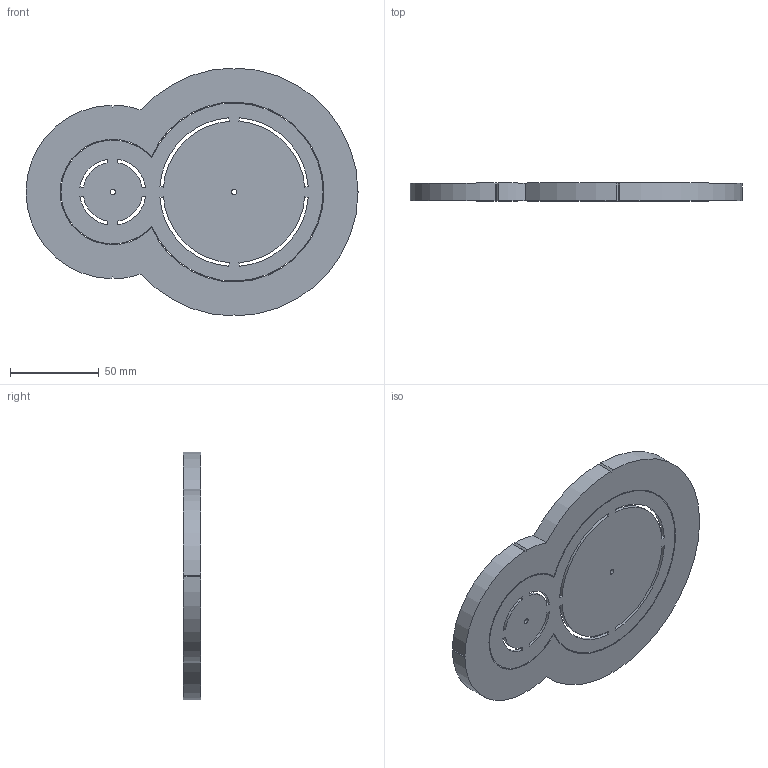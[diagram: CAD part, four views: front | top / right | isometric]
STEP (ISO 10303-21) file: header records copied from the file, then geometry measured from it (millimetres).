
FILE_DESCRIPTION(/* description */ (''),/* implementation_level */ '2;1');
FILE_NAME(/* name */ 'CFCOMBO-Mounting templates.step',/* time_stamp */ '2025-07-14T12:49:41-04:00',/* author */ (''),/* organization */ (''),/* preprocessor_version */ 'ST-DEVELOPER v20.1',/* originating_system */ 'Autodesk Translation Framework v14.10.0.0',/* authorisation */ '');
FILE_SCHEMA (('AUTOMOTIVE_DESIGN { 1 0 10303 214 3 1 1 }'));
Length unit declared in the file: millimetre
Products named in the file (3): ST-23Y32_34_V2_ASM; CFCOMBO_Flush trim template; CFCOMBO_Center to center template
Assembly tree (2 placements, depth 2):
  ST-23Y32_34_V2_ASM
    CFCOMBO_Flush trim template
    CFCOMBO_Center to center template
Bounding box: 187.5 x 10 x 139.99 mm (x, y, z)
Volume: 108793.3 mm3; surface area: 52009.2 mm2
Topology: 2 solids, 2 shells, 1231 faces, 3410 edges, 2272 vertices
Faces by surface type: bspline 640, plane 560, cylinder 31
Full cylindrical faces by diameter (mm): 3 x2
Entity records: 44589 total; most frequent: CARTESIAN_POINT 17550, ORIENTED_EDGE 6820, EDGE_CURVE 3410, DIRECTION 3388, VERTEX_POINT 2272, LINE 2064, VECTOR 2064, EDGE_LOOP 1342
